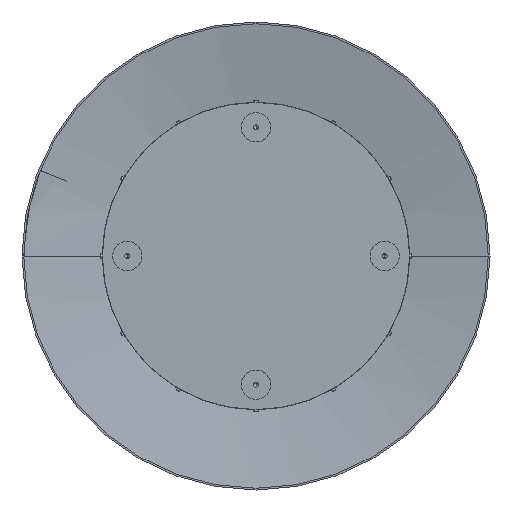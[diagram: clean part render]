
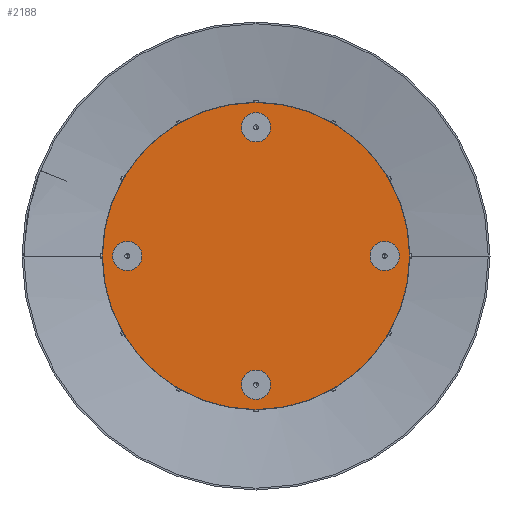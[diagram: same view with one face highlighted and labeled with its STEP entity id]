
A CAD part, front view. The second image highlights one B-rep face of the part: STEP entity #2188.
In plain terms, the highlighted planar face has unit normal (0, -1, 0).
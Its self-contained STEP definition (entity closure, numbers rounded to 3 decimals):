
#38 = AXIS2_PLACEMENT_3D ( 'NONE', #11962, #2010, #8571 ) ;
#53 = CARTESIAN_POINT ( 'NONE',  ( 0., 0., 195. ) ) ;
#75 = DIRECTION ( 'NONE',  ( 0., 0., 1. ) ) ;
#101 = EDGE_CURVE ( 'NONE', #12127, #7604, #5928, .T. ) ;
#306 = EDGE_LOOP ( 'NONE', ( #5144, #9934 ) ) ;
#524 = EDGE_LOOP ( 'NONE', ( #9865, #3528 ) ) ;
#618 = CARTESIAN_POINT ( 'NONE',  ( 0., 0., 0. ) ) ;
#695 = EDGE_CURVE ( 'NONE', #2854, #2811, #14250, .T. ) ;
#795 = EDGE_CURVE ( 'NONE', #14184, #7367, #9727, .T. ) ;
#806 = ORIENTED_EDGE ( 'NONE', *, *, #6319, .F. ) ;
#1008 = CARTESIAN_POINT ( 'NONE',  ( -220., 0., 0. ) ) ;
#1399 = CARTESIAN_POINT ( 'NONE',  ( 0., 0., 0. ) ) ;
#1702 = FACE_BOUND ( 'NONE', #12477, .T. ) ;
#1914 = CARTESIAN_POINT ( 'NONE',  ( 0., 0., -262.5 ) ) ;
#2010 = DIRECTION ( 'NONE',  ( 0., -1., 0. ) ) ;
#2188 = ADVANCED_FACE ( 'NONE', ( #13512, #1702, #5525, #6917, #3949 ), #10871, .F. ) ;
#2282 = EDGE_LOOP ( 'NONE', ( #4820, #2860 ) ) ;
#2676 = DIRECTION ( 'NONE',  ( 0., 0., 1. ) ) ;
#2811 = VERTEX_POINT ( 'NONE', #8653 ) ;
#2854 = VERTEX_POINT ( 'NONE', #7627 ) ;
#2860 = ORIENTED_EDGE ( 'NONE', *, *, #6960, .F. ) ;
#2978 = AXIS2_PLACEMENT_3D ( 'NONE', #1008, #8788, #13249 ) ;
#3068 = CIRCLE ( 'NONE', #9904, 25. ) ;
#3231 = CIRCLE ( 'NONE', #7077, 262.5 ) ;
#3235 = DIRECTION ( 'NONE',  ( 0., -1., 0. ) ) ;
#3419 = DIRECTION ( 'NONE',  ( 0., 1., 0. ) ) ;
#3528 = ORIENTED_EDGE ( 'NONE', *, *, #6243, .F. ) ;
#3806 = AXIS2_PLACEMENT_3D ( 'NONE', #11796, #7469, #3973 ) ;
#3949 = FACE_OUTER_BOUND ( 'NONE', #306, .T. ) ;
#3973 = DIRECTION ( 'NONE',  ( 0., 0., 1. ) ) ;
#4002 = AXIS2_PLACEMENT_3D ( 'NONE', #14322, #3419, #9935 ) ;
#4188 = VERTEX_POINT ( 'NONE', #6741 ) ;
#4690 = AXIS2_PLACEMENT_3D ( 'NONE', #10050, #6648, #75 ) ;
#4767 = DIRECTION ( 'NONE',  ( 0., -1., 0. ) ) ;
#4820 = ORIENTED_EDGE ( 'NONE', *, *, #795, .F. ) ;
#5144 = ORIENTED_EDGE ( 'NONE', *, *, #101, .F. ) ;
#5458 = AXIS2_PLACEMENT_3D ( 'NONE', #12317, #11042, #5539 ) ;
#5525 = FACE_BOUND ( 'NONE', #2282, .T. ) ;
#5539 = DIRECTION ( 'NONE',  ( 0., 0., 1. ) ) ;
#5816 = CIRCLE ( 'NONE', #13701, 25. ) ;
#5928 = CIRCLE ( 'NONE', #8558, 262.5 ) ;
#6096 = CARTESIAN_POINT ( 'NONE',  ( 0., 0., 262.5 ) ) ;
#6243 = EDGE_CURVE ( 'NONE', #8546, #4188, #9224, .T. ) ;
#6319 = EDGE_CURVE ( 'NONE', #2811, #2854, #3068, .T. ) ;
#6648 = DIRECTION ( 'NONE',  ( 0., -1., 0. ) ) ;
#6667 = CIRCLE ( 'NONE', #5458, 25. ) ;
#6697 = CARTESIAN_POINT ( 'NONE',  ( 0., 0., -245. ) ) ;
#6721 = ORIENTED_EDGE ( 'NONE', *, *, #7313, .F. ) ;
#6724 = EDGE_CURVE ( 'NONE', #13694, #8198, #11223, .T. ) ;
#6741 = CARTESIAN_POINT ( 'NONE',  ( 0., 0., 245. ) ) ;
#6917 = FACE_BOUND ( 'NONE', #524, .T. ) ;
#6960 = EDGE_CURVE ( 'NONE', #7367, #14184, #5816, .T. ) ;
#7035 = CARTESIAN_POINT ( 'NONE',  ( -220., 0., 0. ) ) ;
#7077 = AXIS2_PLACEMENT_3D ( 'NONE', #1399, #11452, #13700 ) ;
#7313 = EDGE_CURVE ( 'NONE', #8198, #13694, #6667, .T. ) ;
#7367 = VERTEX_POINT ( 'NONE', #13396 ) ;
#7469 = DIRECTION ( 'NONE',  ( 0., -1., 0. ) ) ;
#7604 = VERTEX_POINT ( 'NONE', #6096 ) ;
#7627 = CARTESIAN_POINT ( 'NONE',  ( 220., 0., -25. ) ) ;
#8198 = VERTEX_POINT ( 'NONE', #12517 ) ;
#8361 = CIRCLE ( 'NONE', #13464, 25. ) ;
#8437 = EDGE_LOOP ( 'NONE', ( #806, #8954 ) ) ;
#8546 = VERTEX_POINT ( 'NONE', #53 ) ;
#8558 = AXIS2_PLACEMENT_3D ( 'NONE', #618, #12210, #10156 ) ;
#8571 = DIRECTION ( 'NONE',  ( 0., 0., 1. ) ) ;
#8653 = CARTESIAN_POINT ( 'NONE',  ( 220., 0., 25. ) ) ;
#8788 = DIRECTION ( 'NONE',  ( 0., -1., 0. ) ) ;
#8954 = ORIENTED_EDGE ( 'NONE', *, *, #695, .F. ) ;
#9224 = CIRCLE ( 'NONE', #4690, 25. ) ;
#9298 = EDGE_CURVE ( 'NONE', #4188, #8546, #8361, .T. ) ;
#9727 = CIRCLE ( 'NONE', #2978, 25. ) ;
#9865 = ORIENTED_EDGE ( 'NONE', *, *, #9298, .F. ) ;
#9904 = AXIS2_PLACEMENT_3D ( 'NONE', #9946, #3235, #12036 ) ;
#9934 = ORIENTED_EDGE ( 'NONE', *, *, #12701, .F. ) ;
#9935 = DIRECTION ( 'NONE',  ( 0., 0., 1. ) ) ;
#9946 = CARTESIAN_POINT ( 'NONE',  ( 220., 0., 0. ) ) ;
#10050 = CARTESIAN_POINT ( 'NONE',  ( 0., 0., 220. ) ) ;
#10156 = DIRECTION ( 'NONE',  ( 0., 0., 1. ) ) ;
#10871 = PLANE ( 'NONE',  #4002 ) ;
#11042 = DIRECTION ( 'NONE',  ( 0., -1., 0. ) ) ;
#11223 = CIRCLE ( 'NONE', #38, 25. ) ;
#11452 = DIRECTION ( 'NONE',  ( 0., 1., 0. ) ) ;
#11790 = DIRECTION ( 'NONE',  ( 0., 0., 1. ) ) ;
#11796 = CARTESIAN_POINT ( 'NONE',  ( 220., 0., 0. ) ) ;
#11962 = CARTESIAN_POINT ( 'NONE',  ( 0., 0., -220. ) ) ;
#12036 = DIRECTION ( 'NONE',  ( 0., 0., 1. ) ) ;
#12127 = VERTEX_POINT ( 'NONE', #1914 ) ;
#12210 = DIRECTION ( 'NONE',  ( 0., 1., 0. ) ) ;
#12317 = CARTESIAN_POINT ( 'NONE',  ( 0., 0., -220. ) ) ;
#12477 = EDGE_LOOP ( 'NONE', ( #6721, #12492 ) ) ;
#12492 = ORIENTED_EDGE ( 'NONE', *, *, #6724, .F. ) ;
#12517 = CARTESIAN_POINT ( 'NONE',  ( 0., 0., -195. ) ) ;
#12701 = EDGE_CURVE ( 'NONE', #7604, #12127, #3231, .T. ) ;
#12898 = DIRECTION ( 'NONE',  ( 0., -1., 0. ) ) ;
#12998 = CARTESIAN_POINT ( 'NONE',  ( 0., 0., 220. ) ) ;
#13249 = DIRECTION ( 'NONE',  ( 0., 0., 1. ) ) ;
#13396 = CARTESIAN_POINT ( 'NONE',  ( -220., 0., -25. ) ) ;
#13464 = AXIS2_PLACEMENT_3D ( 'NONE', #12998, #12898, #11790 ) ;
#13512 = FACE_BOUND ( 'NONE', #8437, .T. ) ;
#13694 = VERTEX_POINT ( 'NONE', #6697 ) ;
#13700 = DIRECTION ( 'NONE',  ( 0., 0., 1. ) ) ;
#13701 = AXIS2_PLACEMENT_3D ( 'NONE', #7035, #4767, #2676 ) ;
#14089 = CARTESIAN_POINT ( 'NONE',  ( -220., 0., 25. ) ) ;
#14184 = VERTEX_POINT ( 'NONE', #14089 ) ;
#14250 = CIRCLE ( 'NONE', #3806, 25. ) ;
#14322 = CARTESIAN_POINT ( 'NONE',  ( 0., 0., 0. ) ) ;
